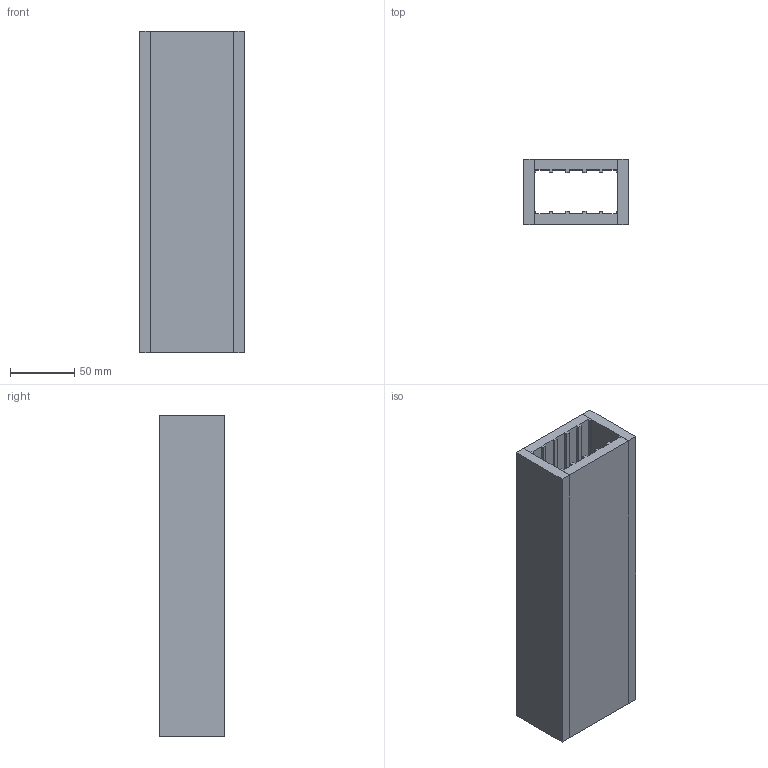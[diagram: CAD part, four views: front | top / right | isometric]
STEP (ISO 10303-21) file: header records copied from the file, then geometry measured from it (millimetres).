
FILE_DESCRIPTION (( 'STEP AP203' ), '1' );
FILE_NAME ('E1.S_9.5mm.STEP', '2021-08-02T21:00:08', ( '' ), ( '' ), 'SwSTEP 2.0', 'SolidWorks 2020', '' );
FILE_SCHEMA (( 'CONFIG_CONTROL_DESIGN' ));
Length unit declared in the file: millimetre
Products named in the file (3): E1.S_9.5mm; SSD Wind Tunnel Fixture_BASE_E1.S 9.5mm; SSD Wind Tunnel Fixture_SIDES_E1.S
Assembly tree (4 placements, depth 2):
  E1.S_9.5mm
    SSD Wind Tunnel Fixture_BASE_E1.S 9.5mm  x2
    SSD Wind Tunnel Fixture_SIDES_E1.S  x2
Bounding box: 81 x 50.5 x 250 mm (x, y, z)
Volume: 476250 mm3; surface area: 147310 mm2
Topology: 4 solids, 4 shells, 64 faces, 168 edges, 112 vertices
Faces by surface type: plane 64
Entity records: 1337 total; most frequent: CARTESIAN_POINT 179, ORIENTED_EDGE 168, DIRECTION 162, EDGE_CURVE 84, LINE 84, VECTOR 84, VERTEX_POINT 56, AXIS2_PLACEMENT_3D 39
